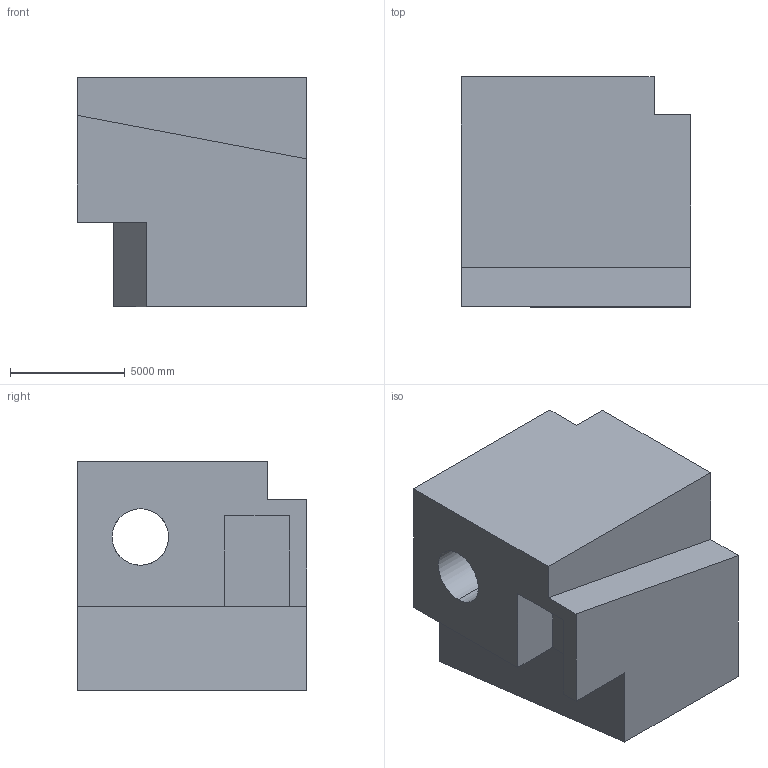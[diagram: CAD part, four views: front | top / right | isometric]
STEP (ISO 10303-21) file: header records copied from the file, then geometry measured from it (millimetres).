
FILE_DESCRIPTION (( 'STEP AP203' ), '1' );
FILE_NAME ('1592.STEP', '2022-08-18T16:01:03', ( 'user' ), ( '' ), 'SwSTEP 2.0', 'SolidWorks 2021', '' );
FILE_SCHEMA (( 'CONFIG_CONTROL_DESIGN' ));
Length unit declared in the file: centimetre
Products named in the file (1): 1592
Bounding box: 10000 x 10000 x 10000 mm (x, y, z)
Volume: 742939793075.3 mm3; surface area: 674638097.1 mm2
Topology: 1 solids, 1 shells, 22 faces, 63 edges, 42 vertices
Faces by surface type: plane 18, cylinder 4
Entity records: 800 total; most frequent: CARTESIAN_POINT 128, ORIENTED_EDGE 126, DIRECTION 121, EDGE_CURVE 63, VECTOR 51, LINE 51, VERTEX_POINT 42, AXIS2_PLACEMENT_3D 35
